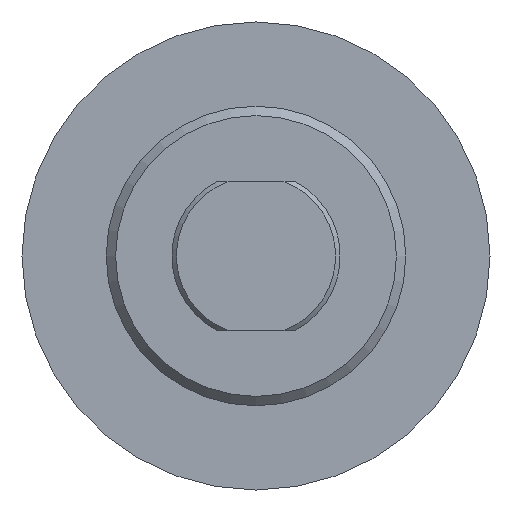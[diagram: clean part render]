
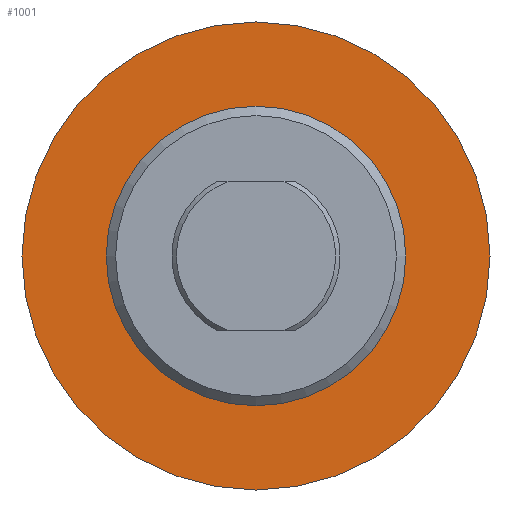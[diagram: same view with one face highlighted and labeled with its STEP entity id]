
A CAD part, left-side view. The second image highlights one B-rep face of the part: STEP entity #1001.
In plain terms, the highlighted planar face has unit normal (-1, 0, 0).
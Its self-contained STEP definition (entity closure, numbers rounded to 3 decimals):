
#108=FACE_BOUND('',#217,.T.);
#119=PLANE('',#1260);
#153=FACE_OUTER_BOUND('',#216,.T.);
#216=EDGE_LOOP('',(#759,#760));
#217=EDGE_LOOP('',(#761,#762));
#364=CIRCLE('',#1217,16.);
#365=CIRCLE('',#1218,16.);
#392=CIRCLE('',#1253,25.);
#393=CIRCLE('',#1254,25.);
#442=VERTEX_POINT('',#1728);
#443=VERTEX_POINT('',#1729);
#468=VERTEX_POINT('',#1795);
#469=VERTEX_POINT('',#1797);
#540=EDGE_CURVE('',#442,#443,#364,.T.);
#541=EDGE_CURVE('',#443,#442,#365,.T.);
#574=EDGE_CURVE('',#468,#469,#392,.T.);
#575=EDGE_CURVE('',#469,#468,#393,.T.);
#759=ORIENTED_EDGE('',*,*,#575,.F.);
#760=ORIENTED_EDGE('',*,*,#574,.F.);
#761=ORIENTED_EDGE('',*,*,#540,.T.);
#762=ORIENTED_EDGE('',*,*,#541,.T.);
#1001=ADVANCED_FACE('',(#153,#108),#119,.T.);
#1217=AXIS2_PLACEMENT_3D('',#1730,#1383,#1384);
#1218=AXIS2_PLACEMENT_3D('',#1731,#1385,#1386);
#1253=AXIS2_PLACEMENT_3D('',#1798,#1461,#1462);
#1254=AXIS2_PLACEMENT_3D('',#1799,#1463,#1464);
#1260=AXIS2_PLACEMENT_3D('',#1810,#1477,#1478);
#1383=DIRECTION('center_axis',(1.,0.,0.));
#1384=DIRECTION('ref_axis',(0.,0.,-1.));
#1385=DIRECTION('center_axis',(1.,0.,0.));
#1386=DIRECTION('ref_axis',(0.,0.,-1.));
#1461=DIRECTION('center_axis',(1.,0.,0.));
#1462=DIRECTION('ref_axis',(0.,0.,-1.));
#1463=DIRECTION('center_axis',(1.,0.,0.));
#1464=DIRECTION('ref_axis',(0.,0.,-1.));
#1477=DIRECTION('center_axis',(-1.,0.,0.));
#1478=DIRECTION('ref_axis',(0.,0.,1.));
#1728=CARTESIAN_POINT('',(-6.,16.,0.));
#1729=CARTESIAN_POINT('',(-6.,-16.,0.));
#1730=CARTESIAN_POINT('Origin',(-6.,0.,0.));
#1731=CARTESIAN_POINT('Origin',(-6.,0.,0.));
#1795=CARTESIAN_POINT('',(-6.,-25.,0.));
#1797=CARTESIAN_POINT('',(-6.,25.,0.));
#1798=CARTESIAN_POINT('Origin',(-6.,0.,0.));
#1799=CARTESIAN_POINT('Origin',(-6.,0.,0.));
#1810=CARTESIAN_POINT('Origin',(-6.,25.,0.));
